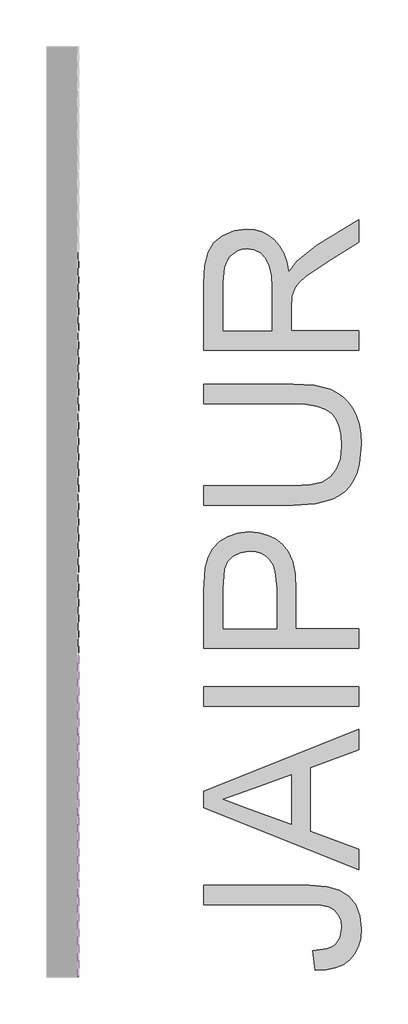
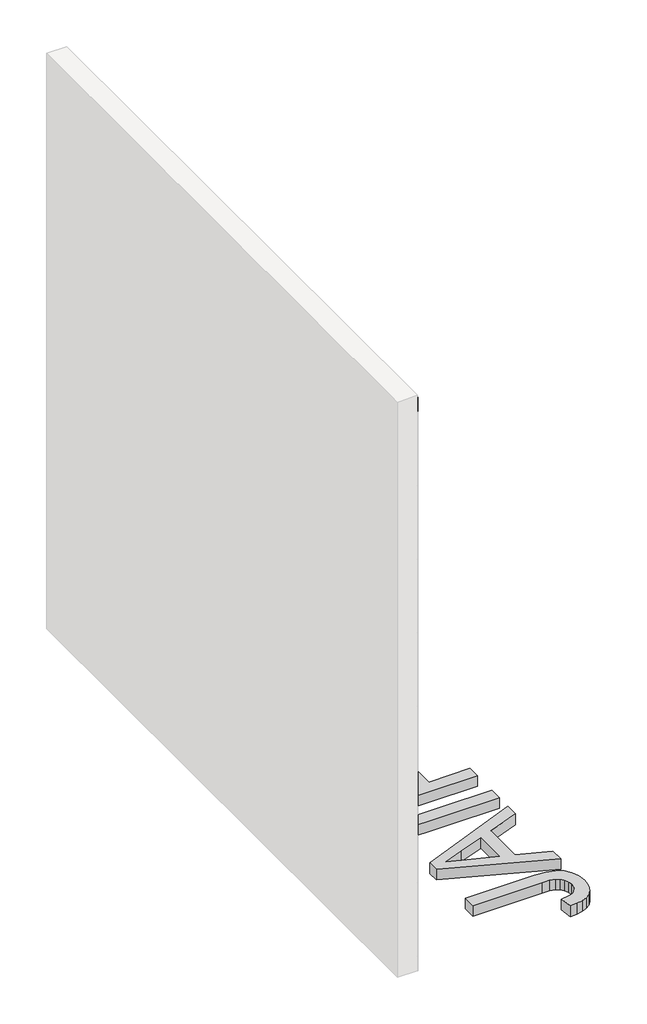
# One storey, part 16 of 45: 129 proxies.
"""IFC4 building model written with IfcOpenShell, lengths in millimetres."""

from ifc_helpers import new_model, si_unit, origin, origin_with_axes, place, context, project, spatial, polyline, outline, extrude, transform, mapped, element, save
from components import generic_models_ab0f2c30

model = new_model("IFC4")

# Units and contexts
model_context = context("Model", 3, world=origin())
ifc_project = project(units=[si_unit("LENGTHUNIT", "METRE", prefix="MILLI")], contexts=[model_context])

# Site, building, storey
site = spatial("IfcSite", under=ifc_project)
building = spatial("IfcBuilding", under=site)
storey = spatial("IfcBuildingStorey", under=building, Name="PORTOBELLO - SHOWROOM", Elevation=0.0)

# Proxies
placement = place(None, origin())
generic_models_shape = generic_models_ab0f2c30(model_context)
element("IfcBuildingElementProxy", 1, Name="PBSHOP - HORIZONTES JAIPUR 6,5X23 : JAIPUR", ObjectType="PBSHOP - HORIZONTES JAIPUR 6,5X23 : JAIPUR", at=placement, inside=storey, context=model_context, shape_type="MappedRepresentation", body=[
    mapped(generic_models_shape, transform((69111.8826867, 2039.9760255, 34.5), x_axis=(0.0, 0.0, 1.0), y_axis=(0.0, -1.0, 0.0), z_axis=(1.0, 0.0, 0.0))),
])
element("IfcBuildingElementProxy", 2, Name="PBSHOP - HORIZONTES JAIPUR 6,5X23 : JAIPUR", ObjectType="PBSHOP - HORIZONTES JAIPUR 6,5X23 : JAIPUR", at=placement, inside=storey, context=model_context, shape_type="MappedRepresentation", body=[
    mapped(generic_models_shape, transform((69111.8826867, 2273.9760255, 34.5), x_axis=(0.0, 0.0, 1.0), y_axis=(0.0, -1.0, 0.0), z_axis=(1.0, 0.0, 0.0))),
])
element("IfcBuildingElementProxy", 3, Name="PBSHOP - HORIZONTES JAIPUR 6,5X23 : JAIPUR", ObjectType="PBSHOP - HORIZONTES JAIPUR 6,5X23 : JAIPUR", at=placement, inside=storey, context=model_context, shape_type="MappedRepresentation", body=[
    mapped(generic_models_shape, transform((69111.8826867, 2507.9760255, 34.5), x_axis=(0.0, 0.0, 1.0), y_axis=(0.0, -1.0, 0.0), z_axis=(1.0, 0.0, 0.0))),
])
element("IfcBuildingElementProxy", 4, Name="PBSHOP - HORIZONTES JAIPUR 6,5X23 : JAIPUR", ObjectType="PBSHOP - HORIZONTES JAIPUR 6,5X23 : JAIPUR", at=placement, inside=storey, context=model_context, shape_type="MappedRepresentation", body=[
    mapped(generic_models_shape, transform((69111.8826867, 2741.9760255, 34.5), x_axis=(0.0, 0.0, 1.0), y_axis=(0.0, -1.0, 0.0), z_axis=(1.0, 0.0, 0.0))),
])
element("IfcBuildingElementProxy", 5, Name="PBSHOP - HORIZONTES JAIPUR 6,5X23 : JAIPUR", ObjectType="PBSHOP - HORIZONTES JAIPUR 6,5X23 : JAIPUR", at=placement, inside=storey, context=model_context, shape_type="MappedRepresentation", body=[
    mapped(generic_models_shape, transform((69111.8826867, 2975.9760255, 34.5), x_axis=(0.0, 0.0, 1.0), y_axis=(0.0, -1.0, 0.0), z_axis=(1.0, 0.0, 0.0))),
])
element("IfcBuildingElementProxy", 6, Name="PBSHOP - HORIZONTES JAIPUR 6,5X23 : JAIPUR", ObjectType="PBSHOP - HORIZONTES JAIPUR 6,5X23 : JAIPUR", at=placement, inside=storey, context=model_context, shape_type="MappedRepresentation", body=[
    mapped(generic_models_shape, transform((69111.8826867, 2039.9760255, 103.5), x_axis=(0.0, 0.0, 1.0), y_axis=(0.0, -1.0, 0.0), z_axis=(1.0, 0.0, 0.0))),
])
element("IfcBuildingElementProxy", 7, Name="PBSHOP - HORIZONTES JAIPUR 6,5X23 : JAIPUR", ObjectType="PBSHOP - HORIZONTES JAIPUR 6,5X23 : JAIPUR", at=placement, inside=storey, context=model_context, shape_type="MappedRepresentation", body=[
    mapped(generic_models_shape, transform((69111.8826867, 2273.9760255, 103.5), x_axis=(0.0, 0.0, 1.0), y_axis=(0.0, -1.0, 0.0), z_axis=(1.0, 0.0, 0.0))),
])
element("IfcBuildingElementProxy", 8, Name="PBSHOP - HORIZONTES JAIPUR 6,5X23 : JAIPUR", ObjectType="PBSHOP - HORIZONTES JAIPUR 6,5X23 : JAIPUR", at=placement, inside=storey, context=model_context, shape_type="MappedRepresentation", body=[
    mapped(generic_models_shape, transform((69111.8826867, 2507.9760255, 103.5), x_axis=(0.0, 0.0, 1.0), y_axis=(0.0, -1.0, 0.0), z_axis=(1.0, 0.0, 0.0))),
])
element("IfcBuildingElementProxy", 9, Name="PBSHOP - HORIZONTES JAIPUR 6,5X23 : JAIPUR", ObjectType="PBSHOP - HORIZONTES JAIPUR 6,5X23 : JAIPUR", at=placement, inside=storey, context=model_context, shape_type="MappedRepresentation", body=[
    mapped(generic_models_shape, transform((69111.8826867, 2741.9760255, 103.5), x_axis=(0.0, 0.0, 1.0), y_axis=(0.0, -1.0, 0.0), z_axis=(1.0, 0.0, 0.0))),
])
element("IfcBuildingElementProxy", 10, Name="PBSHOP - HORIZONTES JAIPUR 6,5X23 : JAIPUR", ObjectType="PBSHOP - HORIZONTES JAIPUR 6,5X23 : JAIPUR", at=placement, inside=storey, context=model_context, shape_type="MappedRepresentation", body=[
    mapped(generic_models_shape, transform((69111.8826867, 2975.9760255, 103.5), x_axis=(0.0, 0.0, 1.0), y_axis=(0.0, -1.0, 0.0), z_axis=(1.0, 0.0, 0.0))),
])
element("IfcBuildingElementProxy", 11, Name="PBSHOP - HORIZONTES JAIPUR 6,5X23 : JAIPUR", ObjectType="PBSHOP - HORIZONTES JAIPUR 6,5X23 : JAIPUR", at=placement, inside=storey, context=model_context, shape_type="MappedRepresentation", body=[
    mapped(generic_models_shape, transform((69111.8826867, 2039.9760255, 172.5), x_axis=(0.0, 0.0, 1.0), y_axis=(0.0, -1.0, 0.0), z_axis=(1.0, 0.0, 0.0))),
])
element("IfcBuildingElementProxy", 12, Name="PBSHOP - HORIZONTES JAIPUR 6,5X23 : JAIPUR", ObjectType="PBSHOP - HORIZONTES JAIPUR 6,5X23 : JAIPUR", at=placement, inside=storey, context=model_context, shape_type="MappedRepresentation", body=[
    mapped(generic_models_shape, transform((69111.8826867, 2273.9760255, 172.5), x_axis=(0.0, 0.0, 1.0), y_axis=(0.0, -1.0, 0.0), z_axis=(1.0, 0.0, 0.0))),
])
element("IfcBuildingElementProxy", 13, Name="PBSHOP - HORIZONTES JAIPUR 6,5X23 : JAIPUR", ObjectType="PBSHOP - HORIZONTES JAIPUR 6,5X23 : JAIPUR", at=placement, inside=storey, context=model_context, shape_type="MappedRepresentation", body=[
    mapped(generic_models_shape, transform((69111.8826867, 2507.9760255, 172.5), x_axis=(0.0, 0.0, 1.0), y_axis=(0.0, -1.0, 0.0), z_axis=(1.0, 0.0, 0.0))),
])
element("IfcBuildingElementProxy", 14, Name="PBSHOP - HORIZONTES JAIPUR 6,5X23 : JAIPUR", ObjectType="PBSHOP - HORIZONTES JAIPUR 6,5X23 : JAIPUR", at=placement, inside=storey, context=model_context, shape_type="MappedRepresentation", body=[
    mapped(generic_models_shape, transform((69111.8826867, 2741.9760255, 172.5), x_axis=(0.0, 0.0, 1.0), y_axis=(0.0, -1.0, 0.0), z_axis=(1.0, 0.0, 0.0))),
])
element("IfcBuildingElementProxy", 15, Name="PBSHOP - HORIZONTES JAIPUR 6,5X23 : JAIPUR", ObjectType="PBSHOP - HORIZONTES JAIPUR 6,5X23 : JAIPUR", at=placement, inside=storey, context=model_context, shape_type="MappedRepresentation", body=[
    mapped(generic_models_shape, transform((69111.8826867, 2975.9760255, 172.5), x_axis=(0.0, 0.0, 1.0), y_axis=(0.0, -1.0, 0.0), z_axis=(1.0, 0.0, 0.0))),
])
element("IfcBuildingElementProxy", 16, Name="PBSHOP - HORIZONTES JAIPUR 6,5X23 : JAIPUR", ObjectType="PBSHOP - HORIZONTES JAIPUR 6,5X23 : JAIPUR", at=placement, inside=storey, context=model_context, shape_type="MappedRepresentation", body=[
    mapped(generic_models_shape, transform((69111.8826867, 2039.9760255, 241.5), x_axis=(0.0, 0.0, 1.0), y_axis=(0.0, -1.0, 0.0), z_axis=(1.0, 0.0, 0.0))),
])
element("IfcBuildingElementProxy", 17, Name="PBSHOP - HORIZONTES JAIPUR 6,5X23 : JAIPUR", ObjectType="PBSHOP - HORIZONTES JAIPUR 6,5X23 : JAIPUR", at=placement, inside=storey, context=model_context, shape_type="MappedRepresentation", body=[
    mapped(generic_models_shape, transform((69111.8826867, 2273.9760255, 241.5), x_axis=(0.0, 0.0, 1.0), y_axis=(0.0, -1.0, 0.0), z_axis=(1.0, 0.0, 0.0))),
])
element("IfcBuildingElementProxy", 18, Name="PBSHOP - HORIZONTES JAIPUR 6,5X23 : JAIPUR", ObjectType="PBSHOP - HORIZONTES JAIPUR 6,5X23 : JAIPUR", at=placement, inside=storey, context=model_context, shape_type="MappedRepresentation", body=[
    mapped(generic_models_shape, transform((69111.8826867, 2507.9760255, 241.5), x_axis=(0.0, 0.0, 1.0), y_axis=(0.0, -1.0, 0.0), z_axis=(1.0, 0.0, 0.0))),
])
element("IfcBuildingElementProxy", 19, Name="PBSHOP - HORIZONTES JAIPUR 6,5X23 : JAIPUR", ObjectType="PBSHOP - HORIZONTES JAIPUR 6,5X23 : JAIPUR", at=placement, inside=storey, context=model_context, shape_type="MappedRepresentation", body=[
    mapped(generic_models_shape, transform((69111.8826867, 2741.9760255, 241.5), x_axis=(0.0, 0.0, 1.0), y_axis=(0.0, -1.0, 0.0), z_axis=(1.0, 0.0, 0.0))),
])
element("IfcBuildingElementProxy", 20, Name="PBSHOP - HORIZONTES JAIPUR 6,5X23 : JAIPUR", ObjectType="PBSHOP - HORIZONTES JAIPUR 6,5X23 : JAIPUR", at=placement, inside=storey, context=model_context, shape_type="MappedRepresentation", body=[
    mapped(generic_models_shape, transform((69111.8826867, 2975.9760255, 241.5), x_axis=(0.0, 0.0, 1.0), y_axis=(0.0, -1.0, 0.0), z_axis=(1.0, 0.0, 0.0))),
])
element("IfcBuildingElementProxy", 21, Name="PBSHOP - HORIZONTES JAIPUR 6,5X23 : JAIPUR", ObjectType="PBSHOP - HORIZONTES JAIPUR 6,5X23 : JAIPUR", at=placement, inside=storey, context=model_context, shape_type="MappedRepresentation", body=[
    mapped(generic_models_shape, transform((69111.8826867, 2039.9760255, 310.5), x_axis=(0.0, 0.0, 1.0), y_axis=(0.0, -1.0, 0.0), z_axis=(1.0, 0.0, 0.0))),
])
element("IfcBuildingElementProxy", 22, Name="PBSHOP - HORIZONTES JAIPUR 6,5X23 : JAIPUR", ObjectType="PBSHOP - HORIZONTES JAIPUR 6,5X23 : JAIPUR", at=placement, inside=storey, context=model_context, shape_type="MappedRepresentation", body=[
    mapped(generic_models_shape, transform((69111.8826867, 2273.9760255, 310.5), x_axis=(0.0, 0.0, 1.0), y_axis=(0.0, -1.0, 0.0), z_axis=(1.0, 0.0, 0.0))),
])
element("IfcBuildingElementProxy", 23, Name="PBSHOP - HORIZONTES JAIPUR 6,5X23 : JAIPUR", ObjectType="PBSHOP - HORIZONTES JAIPUR 6,5X23 : JAIPUR", at=placement, inside=storey, context=model_context, shape_type="MappedRepresentation", body=[
    mapped(generic_models_shape, transform((69111.8826867, 2507.9760255, 310.5), x_axis=(0.0, 0.0, 1.0), y_axis=(0.0, -1.0, 0.0), z_axis=(1.0, 0.0, 0.0))),
])
element("IfcBuildingElementProxy", 24, Name="PBSHOP - HORIZONTES JAIPUR 6,5X23 : JAIPUR", ObjectType="PBSHOP - HORIZONTES JAIPUR 6,5X23 : JAIPUR", at=placement, inside=storey, context=model_context, shape_type="MappedRepresentation", body=[
    mapped(generic_models_shape, transform((69111.8826867, 2741.9760255, 310.5), x_axis=(0.0, 0.0, 1.0), y_axis=(0.0, -1.0, 0.0), z_axis=(1.0, 0.0, 0.0))),
])
element("IfcBuildingElementProxy", 25, Name="PBSHOP - HORIZONTES JAIPUR 6,5X23 : JAIPUR", ObjectType="PBSHOP - HORIZONTES JAIPUR 6,5X23 : JAIPUR", at=placement, inside=storey, context=model_context, shape_type="MappedRepresentation", body=[
    mapped(generic_models_shape, transform((69111.8826867, 2975.9760255, 310.5), x_axis=(0.0, 0.0, 1.0), y_axis=(0.0, -1.0, 0.0), z_axis=(1.0, 0.0, 0.0))),
])
element("IfcBuildingElementProxy", 26, Name="PBSHOP - HORIZONTES JAIPUR 6,5X23 : JAIPUR", ObjectType="PBSHOP - HORIZONTES JAIPUR 6,5X23 : JAIPUR", at=placement, inside=storey, context=model_context, shape_type="MappedRepresentation", body=[
    mapped(generic_models_shape, transform((69111.8826867, 2039.9760255, 379.5), x_axis=(0.0, 0.0, 1.0), y_axis=(0.0, -1.0, 0.0), z_axis=(1.0, 0.0, 0.0))),
])
element("IfcBuildingElementProxy", 27, Name="PBSHOP - HORIZONTES JAIPUR 6,5X23 : JAIPUR", ObjectType="PBSHOP - HORIZONTES JAIPUR 6,5X23 : JAIPUR", at=placement, inside=storey, context=model_context, shape_type="MappedRepresentation", body=[
    mapped(generic_models_shape, transform((69111.8826867, 2273.9760255, 379.5), x_axis=(0.0, 0.0, 1.0), y_axis=(0.0, -1.0, 0.0), z_axis=(1.0, 0.0, 0.0))),
])
element("IfcBuildingElementProxy", 28, Name="PBSHOP - HORIZONTES JAIPUR 6,5X23 : JAIPUR", ObjectType="PBSHOP - HORIZONTES JAIPUR 6,5X23 : JAIPUR", at=placement, inside=storey, context=model_context, shape_type="MappedRepresentation", body=[
    mapped(generic_models_shape, transform((69111.8826867, 2507.9760255, 379.5), x_axis=(0.0, 0.0, 1.0), y_axis=(0.0, -1.0, 0.0), z_axis=(1.0, 0.0, 0.0))),
])
element("IfcBuildingElementProxy", 29, Name="PBSHOP - HORIZONTES JAIPUR 6,5X23 : JAIPUR", ObjectType="PBSHOP - HORIZONTES JAIPUR 6,5X23 : JAIPUR", at=placement, inside=storey, context=model_context, shape_type="MappedRepresentation", body=[
    mapped(generic_models_shape, transform((69111.8826867, 2741.9760255, 379.5), x_axis=(0.0, 0.0, 1.0), y_axis=(0.0, -1.0, 0.0), z_axis=(1.0, 0.0, 0.0))),
])
element("IfcBuildingElementProxy", 30, Name="PBSHOP - HORIZONTES JAIPUR 6,5X23 : JAIPUR", ObjectType="PBSHOP - HORIZONTES JAIPUR 6,5X23 : JAIPUR", at=placement, inside=storey, context=model_context, shape_type="MappedRepresentation", body=[
    mapped(generic_models_shape, transform((69111.8826867, 2975.9760255, 379.5), x_axis=(0.0, 0.0, 1.0), y_axis=(0.0, -1.0, 0.0), z_axis=(1.0, 0.0, 0.0))),
])
element("IfcBuildingElementProxy", 31, Name="PBSHOP - HORIZONTES JAIPUR 6,5X23 : JAIPUR", ObjectType="PBSHOP - HORIZONTES JAIPUR 6,5X23 : JAIPUR", at=placement, inside=storey, context=model_context, shape_type="MappedRepresentation", body=[
    mapped(generic_models_shape, transform((69111.8826867, 2039.9760255, 448.5), x_axis=(0.0, 0.0, 1.0), y_axis=(0.0, -1.0, 0.0), z_axis=(1.0, 0.0, 0.0))),
])
element("IfcBuildingElementProxy", 32, Name="PBSHOP - HORIZONTES JAIPUR 6,5X23 : JAIPUR", ObjectType="PBSHOP - HORIZONTES JAIPUR 6,5X23 : JAIPUR", at=placement, inside=storey, context=model_context, shape_type="MappedRepresentation", body=[
    mapped(generic_models_shape, transform((69111.8826867, 2273.9760255, 448.5), x_axis=(0.0, 0.0, 1.0), y_axis=(0.0, -1.0, 0.0), z_axis=(1.0, 0.0, 0.0))),
])
element("IfcBuildingElementProxy", 33, Name="PBSHOP - HORIZONTES JAIPUR 6,5X23 : JAIPUR", ObjectType="PBSHOP - HORIZONTES JAIPUR 6,5X23 : JAIPUR", at=placement, inside=storey, context=model_context, shape_type="MappedRepresentation", body=[
    mapped(generic_models_shape, transform((69111.8826867, 2507.9760255, 448.5), x_axis=(0.0, 0.0, 1.0), y_axis=(0.0, -1.0, 0.0), z_axis=(1.0, 0.0, 0.0))),
])
element("IfcBuildingElementProxy", 34, Name="PBSHOP - HORIZONTES JAIPUR 6,5X23 : JAIPUR", ObjectType="PBSHOP - HORIZONTES JAIPUR 6,5X23 : JAIPUR", at=placement, inside=storey, context=model_context, shape_type="MappedRepresentation", body=[
    mapped(generic_models_shape, transform((69111.8826867, 2741.9760255, 448.5), x_axis=(0.0, 0.0, 1.0), y_axis=(0.0, -1.0, 0.0), z_axis=(1.0, 0.0, 0.0))),
])
element("IfcBuildingElementProxy", 35, Name="PBSHOP - HORIZONTES JAIPUR 6,5X23 : JAIPUR", ObjectType="PBSHOP - HORIZONTES JAIPUR 6,5X23 : JAIPUR", at=placement, inside=storey, context=model_context, shape_type="MappedRepresentation", body=[
    mapped(generic_models_shape, transform((69111.8826867, 2975.9760255, 448.5), x_axis=(0.0, 0.0, 1.0), y_axis=(0.0, -1.0, 0.0), z_axis=(1.0, 0.0, 0.0))),
])
element("IfcBuildingElementProxy", 36, Name="PBSHOP - HORIZONTES JAIPUR 6,5X23 : JAIPUR", ObjectType="PBSHOP - HORIZONTES JAIPUR 6,5X23 : JAIPUR", at=placement, inside=storey, context=model_context, shape_type="MappedRepresentation", body=[
    mapped(generic_models_shape, transform((69111.8826867, 2039.9760255, 517.5), x_axis=(0.0, 0.0, 1.0), y_axis=(0.0, -1.0, 0.0), z_axis=(1.0, 0.0, 0.0))),
])
element("IfcBuildingElementProxy", 37, Name="PBSHOP - HORIZONTES JAIPUR 6,5X23 : JAIPUR", ObjectType="PBSHOP - HORIZONTES JAIPUR 6,5X23 : JAIPUR", at=placement, inside=storey, context=model_context, shape_type="MappedRepresentation", body=[
    mapped(generic_models_shape, transform((69111.8826867, 2273.9760255, 517.5), x_axis=(0.0, 0.0, 1.0), y_axis=(0.0, -1.0, 0.0), z_axis=(1.0, 0.0, 0.0))),
])
element("IfcBuildingElementProxy", 38, Name="PBSHOP - HORIZONTES JAIPUR 6,5X23 : JAIPUR", ObjectType="PBSHOP - HORIZONTES JAIPUR 6,5X23 : JAIPUR", at=placement, inside=storey, context=model_context, shape_type="MappedRepresentation", body=[
    mapped(generic_models_shape, transform((69111.8826867, 2507.9760255, 517.5), x_axis=(0.0, 0.0, 1.0), y_axis=(0.0, -1.0, 0.0), z_axis=(1.0, 0.0, 0.0))),
])
element("IfcBuildingElementProxy", 39, Name="PBSHOP - HORIZONTES JAIPUR 6,5X23 : JAIPUR", ObjectType="PBSHOP - HORIZONTES JAIPUR 6,5X23 : JAIPUR", at=placement, inside=storey, context=model_context, shape_type="MappedRepresentation", body=[
    mapped(generic_models_shape, transform((69111.8826867, 2741.9760255, 517.5), x_axis=(0.0, 0.0, 1.0), y_axis=(0.0, -1.0, 0.0), z_axis=(1.0, 0.0, 0.0))),
])
element("IfcBuildingElementProxy", 40, Name="PBSHOP - HORIZONTES JAIPUR 6,5X23 : JAIPUR", ObjectType="PBSHOP - HORIZONTES JAIPUR 6,5X23 : JAIPUR", at=placement, inside=storey, context=model_context, shape_type="MappedRepresentation", body=[
    mapped(generic_models_shape, transform((69111.8826867, 2975.9760255, 517.5), x_axis=(0.0, 0.0, 1.0), y_axis=(0.0, -1.0, 0.0), z_axis=(1.0, 0.0, 0.0))),
])
element("IfcBuildingElementProxy", 41, Name="PBSHOP - HORIZONTES JAIPUR 6,5X23 : JAIPUR", ObjectType="PBSHOP - HORIZONTES JAIPUR 6,5X23 : JAIPUR", at=placement, inside=storey, context=model_context, shape_type="MappedRepresentation", body=[
    mapped(generic_models_shape, transform((69111.8826867, 2039.9760255, 586.5), x_axis=(0.0, 0.0, 1.0), y_axis=(0.0, -1.0, 0.0), z_axis=(1.0, 0.0, 0.0))),
])
element("IfcBuildingElementProxy", 42, Name="PBSHOP - HORIZONTES JAIPUR 6,5X23 : JAIPUR", ObjectType="PBSHOP - HORIZONTES JAIPUR 6,5X23 : JAIPUR", at=placement, inside=storey, context=model_context, shape_type="MappedRepresentation", body=[
    mapped(generic_models_shape, transform((69111.8826867, 2273.9760255, 586.5), x_axis=(0.0, 0.0, 1.0), y_axis=(0.0, -1.0, 0.0), z_axis=(1.0, 0.0, 0.0))),
])
element("IfcBuildingElementProxy", 43, Name="PBSHOP - HORIZONTES JAIPUR 6,5X23 : JAIPUR", ObjectType="PBSHOP - HORIZONTES JAIPUR 6,5X23 : JAIPUR", at=placement, inside=storey, context=model_context, shape_type="MappedRepresentation", body=[
    mapped(generic_models_shape, transform((69111.8826867, 2507.9760255, 586.5), x_axis=(0.0, 0.0, 1.0), y_axis=(0.0, -1.0, 0.0), z_axis=(1.0, 0.0, 0.0))),
])
element("IfcBuildingElementProxy", 44, Name="PBSHOP - HORIZONTES JAIPUR 6,5X23 : JAIPUR", ObjectType="PBSHOP - HORIZONTES JAIPUR 6,5X23 : JAIPUR", at=placement, inside=storey, context=model_context, shape_type="MappedRepresentation", body=[
    mapped(generic_models_shape, transform((69111.8826867, 2741.9760255, 586.5), x_axis=(0.0, 0.0, 1.0), y_axis=(0.0, -1.0, 0.0), z_axis=(1.0, 0.0, 0.0))),
])
element("IfcBuildingElementProxy", 45, Name="PBSHOP - HORIZONTES JAIPUR 6,5X23 : JAIPUR", ObjectType="PBSHOP - HORIZONTES JAIPUR 6,5X23 : JAIPUR", at=placement, inside=storey, context=model_context, shape_type="MappedRepresentation", body=[
    mapped(generic_models_shape, transform((69111.8826867, 2975.9760255, 586.5), x_axis=(0.0, 0.0, 1.0), y_axis=(0.0, -1.0, 0.0), z_axis=(1.0, 0.0, 0.0))),
])
element("IfcBuildingElementProxy", 46, Name="PBSHOP - HORIZONTES JAIPUR 6,5X23 : JAIPUR", ObjectType="PBSHOP - HORIZONTES JAIPUR 6,5X23 : JAIPUR", at=placement, inside=storey, context=model_context, shape_type="MappedRepresentation", body=[
    mapped(generic_models_shape, transform((69111.8826867, 2039.9760255, 655.5), x_axis=(0.0, 0.0, 1.0), y_axis=(0.0, -1.0, 0.0), z_axis=(1.0, 0.0, 0.0))),
])
element("IfcBuildingElementProxy", 47, Name="PBSHOP - HORIZONTES JAIPUR 6,5X23 : JAIPUR", ObjectType="PBSHOP - HORIZONTES JAIPUR 6,5X23 : JAIPUR", at=placement, inside=storey, context=model_context, shape_type="MappedRepresentation", body=[
    mapped(generic_models_shape, transform((69111.8826867, 2273.9760255, 655.5), x_axis=(0.0, 0.0, 1.0), y_axis=(0.0, -1.0, 0.0), z_axis=(1.0, 0.0, 0.0))),
])
element("IfcBuildingElementProxy", 48, Name="PBSHOP - HORIZONTES JAIPUR 6,5X23 : JAIPUR", ObjectType="PBSHOP - HORIZONTES JAIPUR 6,5X23 : JAIPUR", at=placement, inside=storey, context=model_context, shape_type="MappedRepresentation", body=[
    mapped(generic_models_shape, transform((69111.8826867, 2507.9760255, 655.5), x_axis=(0.0, 0.0, 1.0), y_axis=(0.0, -1.0, 0.0), z_axis=(1.0, 0.0, 0.0))),
])
element("IfcBuildingElementProxy", 49, Name="PBSHOP - HORIZONTES JAIPUR 6,5X23 : JAIPUR", ObjectType="PBSHOP - HORIZONTES JAIPUR 6,5X23 : JAIPUR", at=placement, inside=storey, context=model_context, shape_type="MappedRepresentation", body=[
    mapped(generic_models_shape, transform((69111.8826867, 2741.9760255, 655.5), x_axis=(0.0, 0.0, 1.0), y_axis=(0.0, -1.0, 0.0), z_axis=(1.0, 0.0, 0.0))),
])
element("IfcBuildingElementProxy", 50, Name="PBSHOP - HORIZONTES JAIPUR 6,5X23 : JAIPUR", ObjectType="PBSHOP - HORIZONTES JAIPUR 6,5X23 : JAIPUR", at=placement, inside=storey, context=model_context, shape_type="MappedRepresentation", body=[
    mapped(generic_models_shape, transform((69111.8826867, 2975.9760255, 655.5), x_axis=(0.0, 0.0, 1.0), y_axis=(0.0, -1.0, 0.0), z_axis=(1.0, 0.0, 0.0))),
])
element("IfcBuildingElementProxy", 51, Name="PBSHOP - HORIZONTES JAIPUR 6,5X23 : JAIPUR", ObjectType="PBSHOP - HORIZONTES JAIPUR 6,5X23 : JAIPUR", at=placement, inside=storey, context=model_context, shape_type="MappedRepresentation", body=[
    mapped(generic_models_shape, transform((69111.8826867, 2039.9760255, 724.5), x_axis=(0.0, 0.0, 1.0), y_axis=(0.0, -1.0, 0.0), z_axis=(1.0, 0.0, 0.0))),
])
element("IfcBuildingElementProxy", 52, Name="PBSHOP - HORIZONTES JAIPUR 6,5X23 : JAIPUR", ObjectType="PBSHOP - HORIZONTES JAIPUR 6,5X23 : JAIPUR", at=placement, inside=storey, context=model_context, shape_type="MappedRepresentation", body=[
    mapped(generic_models_shape, transform((69111.8826867, 2273.9760255, 724.5), x_axis=(0.0, 0.0, 1.0), y_axis=(0.0, -1.0, 0.0), z_axis=(1.0, 0.0, 0.0))),
])
element("IfcBuildingElementProxy", 53, Name="PBSHOP - HORIZONTES JAIPUR 6,5X23 : JAIPUR", ObjectType="PBSHOP - HORIZONTES JAIPUR 6,5X23 : JAIPUR", at=placement, inside=storey, context=model_context, shape_type="MappedRepresentation", body=[
    mapped(generic_models_shape, transform((69111.8826867, 2507.9760255, 724.5), x_axis=(0.0, 0.0, 1.0), y_axis=(0.0, -1.0, 0.0), z_axis=(1.0, 0.0, 0.0))),
])
element("IfcBuildingElementProxy", 54, Name="PBSHOP - HORIZONTES JAIPUR 6,5X23 : JAIPUR", ObjectType="PBSHOP - HORIZONTES JAIPUR 6,5X23 : JAIPUR", at=placement, inside=storey, context=model_context, shape_type="MappedRepresentation", body=[
    mapped(generic_models_shape, transform((69111.8826867, 2741.9760255, 724.5), x_axis=(0.0, 0.0, 1.0), y_axis=(0.0, -1.0, 0.0), z_axis=(1.0, 0.0, 0.0))),
])
element("IfcBuildingElementProxy", 55, Name="PBSHOP - HORIZONTES JAIPUR 6,5X23 : JAIPUR", ObjectType="PBSHOP - HORIZONTES JAIPUR 6,5X23 : JAIPUR", at=placement, inside=storey, context=model_context, shape_type="MappedRepresentation", body=[
    mapped(generic_models_shape, transform((69111.8826867, 2975.9760255, 724.5), x_axis=(0.0, 0.0, 1.0), y_axis=(0.0, -1.0, 0.0), z_axis=(1.0, 0.0, 0.0))),
])
element("IfcBuildingElementProxy", 56, Name="PBSHOP - HORIZONTES JAIPUR 6,5X23 : JAIPUR", ObjectType="PBSHOP - HORIZONTES JAIPUR 6,5X23 : JAIPUR", at=placement, inside=storey, context=model_context, shape_type="MappedRepresentation", body=[
    mapped(generic_models_shape, transform((69111.8826867, 2039.9760255, 793.5), x_axis=(0.0, 0.0, 1.0), y_axis=(0.0, -1.0, 0.0), z_axis=(1.0, 0.0, 0.0))),
])
element("IfcBuildingElementProxy", 57, Name="PBSHOP - HORIZONTES JAIPUR 6,5X23 : JAIPUR", ObjectType="PBSHOP - HORIZONTES JAIPUR 6,5X23 : JAIPUR", at=placement, inside=storey, context=model_context, shape_type="MappedRepresentation", body=[
    mapped(generic_models_shape, transform((69111.8826867, 2273.9760255, 793.5), x_axis=(0.0, 0.0, 1.0), y_axis=(0.0, -1.0, 0.0), z_axis=(1.0, 0.0, 0.0))),
])
element("IfcBuildingElementProxy", 58, Name="PBSHOP - HORIZONTES JAIPUR 6,5X23 : JAIPUR", ObjectType="PBSHOP - HORIZONTES JAIPUR 6,5X23 : JAIPUR", at=placement, inside=storey, context=model_context, shape_type="MappedRepresentation", body=[
    mapped(generic_models_shape, transform((69111.8826867, 2507.9760255, 793.5), x_axis=(0.0, 0.0, 1.0), y_axis=(0.0, -1.0, 0.0), z_axis=(1.0, 0.0, 0.0))),
])
element("IfcBuildingElementProxy", 59, Name="PBSHOP - HORIZONTES JAIPUR 6,5X23 : JAIPUR", ObjectType="PBSHOP - HORIZONTES JAIPUR 6,5X23 : JAIPUR", at=placement, inside=storey, context=model_context, shape_type="MappedRepresentation", body=[
    mapped(generic_models_shape, transform((69111.8826867, 2741.9760255, 793.5), x_axis=(0.0, 0.0, 1.0), y_axis=(0.0, -1.0, 0.0), z_axis=(1.0, 0.0, 0.0))),
])
element("IfcBuildingElementProxy", 60, Name="PBSHOP - HORIZONTES JAIPUR 6,5X23 : JAIPUR", ObjectType="PBSHOP - HORIZONTES JAIPUR 6,5X23 : JAIPUR", at=placement, inside=storey, context=model_context, shape_type="MappedRepresentation", body=[
    mapped(generic_models_shape, transform((69111.8826867, 2975.9760255, 793.5), x_axis=(0.0, 0.0, 1.0), y_axis=(0.0, -1.0, 0.0), z_axis=(1.0, 0.0, 0.0))),
])
element("IfcBuildingElementProxy", 61, Name="PBSHOP - HORIZONTES JAIPUR 6,5X23 : JAIPUR", ObjectType="PBSHOP - HORIZONTES JAIPUR 6,5X23 : JAIPUR", at=placement, inside=storey, context=model_context, shape_type="MappedRepresentation", body=[
    mapped(generic_models_shape, transform((69111.8826867, 2039.9760255, 862.5), x_axis=(0.0, 0.0, 1.0), y_axis=(0.0, -1.0, 0.0), z_axis=(1.0, 0.0, 0.0))),
])
element("IfcBuildingElementProxy", 62, Name="PBSHOP - HORIZONTES JAIPUR 6,5X23 : JAIPUR", ObjectType="PBSHOP - HORIZONTES JAIPUR 6,5X23 : JAIPUR", at=placement, inside=storey, context=model_context, shape_type="MappedRepresentation", body=[
    mapped(generic_models_shape, transform((69111.8826867, 2273.9760255, 862.5), x_axis=(0.0, 0.0, 1.0), y_axis=(0.0, -1.0, 0.0), z_axis=(1.0, 0.0, 0.0))),
])
element("IfcBuildingElementProxy", 63, Name="PBSHOP - HORIZONTES JAIPUR 6,5X23 : JAIPUR", ObjectType="PBSHOP - HORIZONTES JAIPUR 6,5X23 : JAIPUR", at=placement, inside=storey, context=model_context, shape_type="MappedRepresentation", body=[
    mapped(generic_models_shape, transform((69111.8826867, 2507.9760255, 862.5), x_axis=(0.0, 0.0, 1.0), y_axis=(0.0, -1.0, 0.0), z_axis=(1.0, 0.0, 0.0))),
])
element("IfcBuildingElementProxy", 64, Name="PBSHOP - HORIZONTES JAIPUR 6,5X23 : JAIPUR", ObjectType="PBSHOP - HORIZONTES JAIPUR 6,5X23 : JAIPUR", at=placement, inside=storey, context=model_context, shape_type="MappedRepresentation", body=[
    mapped(generic_models_shape, transform((69111.8826867, 2741.9760255, 862.5), x_axis=(0.0, 0.0, 1.0), y_axis=(0.0, -1.0, 0.0), z_axis=(1.0, 0.0, 0.0))),
])
element("IfcBuildingElementProxy", 65, Name="PBSHOP - HORIZONTES JAIPUR 6,5X23 : JAIPUR", ObjectType="PBSHOP - HORIZONTES JAIPUR 6,5X23 : JAIPUR", at=placement, inside=storey, context=model_context, shape_type="MappedRepresentation", body=[
    mapped(generic_models_shape, transform((69111.8826867, 2975.9760255, 862.5), x_axis=(0.0, 0.0, 1.0), y_axis=(0.0, -1.0, 0.0), z_axis=(1.0, 0.0, 0.0))),
])
element("IfcBuildingElementProxy", 66, Name="PBSHOP - HORIZONTES JAIPUR 6,5X23 : JAIPUR", ObjectType="PBSHOP - HORIZONTES JAIPUR 6,5X23 : JAIPUR", at=placement, inside=storey, context=model_context, shape_type="MappedRepresentation", body=[
    mapped(generic_models_shape, transform((69111.8826867, 2039.9760255, 931.5), x_axis=(0.0, 0.0, 1.0), y_axis=(0.0, -1.0, 0.0), z_axis=(1.0, 0.0, 0.0))),
])
element("IfcBuildingElementProxy", 67, Name="PBSHOP - HORIZONTES JAIPUR 6,5X23 : JAIPUR", ObjectType="PBSHOP - HORIZONTES JAIPUR 6,5X23 : JAIPUR", at=placement, inside=storey, context=model_context, shape_type="MappedRepresentation", body=[
    mapped(generic_models_shape, transform((69111.8826867, 2273.9760255, 931.5), x_axis=(0.0, 0.0, 1.0), y_axis=(0.0, -1.0, 0.0), z_axis=(1.0, 0.0, 0.0))),
])
element("IfcBuildingElementProxy", 68, Name="PBSHOP - HORIZONTES JAIPUR 6,5X23 : JAIPUR", ObjectType="PBSHOP - HORIZONTES JAIPUR 6,5X23 : JAIPUR", at=placement, inside=storey, context=model_context, shape_type="MappedRepresentation", body=[
    mapped(generic_models_shape, transform((69111.8826867, 2507.9760255, 931.5), x_axis=(0.0, 0.0, 1.0), y_axis=(0.0, -1.0, 0.0), z_axis=(1.0, 0.0, 0.0))),
])
element("IfcBuildingElementProxy", 69, Name="PBSHOP - HORIZONTES JAIPUR 6,5X23 : JAIPUR", ObjectType="PBSHOP - HORIZONTES JAIPUR 6,5X23 : JAIPUR", at=placement, inside=storey, context=model_context, shape_type="MappedRepresentation", body=[
    mapped(generic_models_shape, transform((69111.8826867, 2741.9760255, 931.5), x_axis=(0.0, 0.0, 1.0), y_axis=(0.0, -1.0, 0.0), z_axis=(1.0, 0.0, 0.0))),
])
element("IfcBuildingElementProxy", 70, Name="PBSHOP - HORIZONTES JAIPUR 6,5X23 : JAIPUR", ObjectType="PBSHOP - HORIZONTES JAIPUR 6,5X23 : JAIPUR", at=placement, inside=storey, context=model_context, shape_type="MappedRepresentation", body=[
    mapped(generic_models_shape, transform((69111.8826867, 2975.9760255, 931.5), x_axis=(0.0, 0.0, 1.0), y_axis=(0.0, -1.0, 0.0), z_axis=(1.0, 0.0, 0.0))),
])
element("IfcBuildingElementProxy", 71, Name="PBSHOP - HORIZONTES JAIPUR 6,5X23 : JAIPUR", ObjectType="PBSHOP - HORIZONTES JAIPUR 6,5X23 : JAIPUR", at=placement, inside=storey, context=model_context, shape_type="MappedRepresentation", body=[
    mapped(generic_models_shape, transform((69111.8826867, 2039.9760255, 1000.5), x_axis=(0.0, 0.0, 1.0), y_axis=(0.0, -1.0, 0.0), z_axis=(1.0, 0.0, 0.0))),
])
element("IfcBuildingElementProxy", 72, Name="PBSHOP - HORIZONTES JAIPUR 6,5X23 : JAIPUR", ObjectType="PBSHOP - HORIZONTES JAIPUR 6,5X23 : JAIPUR", at=placement, inside=storey, context=model_context, shape_type="MappedRepresentation", body=[
    mapped(generic_models_shape, transform((69111.8826867, 2273.9760255, 1000.5), x_axis=(0.0, 0.0, 1.0), y_axis=(0.0, -1.0, 0.0), z_axis=(1.0, 0.0, 0.0))),
])
element("IfcBuildingElementProxy", 73, Name="PBSHOP - HORIZONTES JAIPUR 6,5X23 : JAIPUR", ObjectType="PBSHOP - HORIZONTES JAIPUR 6,5X23 : JAIPUR", at=placement, inside=storey, context=model_context, shape_type="MappedRepresentation", body=[
    mapped(generic_models_shape, transform((69111.8826867, 2507.9760255, 1000.5), x_axis=(0.0, 0.0, 1.0), y_axis=(0.0, -1.0, 0.0), z_axis=(1.0, 0.0, 0.0))),
])
element("IfcBuildingElementProxy", 74, Name="PBSHOP - HORIZONTES JAIPUR 6,5X23 : JAIPUR", ObjectType="PBSHOP - HORIZONTES JAIPUR 6,5X23 : JAIPUR", at=placement, inside=storey, context=model_context, shape_type="MappedRepresentation", body=[
    mapped(generic_models_shape, transform((69111.8826867, 2741.9760255, 1000.5), x_axis=(0.0, 0.0, 1.0), y_axis=(0.0, -1.0, 0.0), z_axis=(1.0, 0.0, 0.0))),
])
element("IfcBuildingElementProxy", 75, Name="PBSHOP - HORIZONTES JAIPUR 6,5X23 : JAIPUR", ObjectType="PBSHOP - HORIZONTES JAIPUR 6,5X23 : JAIPUR", at=placement, inside=storey, context=model_context, shape_type="MappedRepresentation", body=[
    mapped(generic_models_shape, transform((69111.8826867, 2975.9760255, 1000.5), x_axis=(0.0, 0.0, 1.0), y_axis=(0.0, -1.0, 0.0), z_axis=(1.0, 0.0, 0.0))),
])
element("IfcBuildingElementProxy", 76, Name="PBSHOP - HORIZONTES JAIPUR 6,5X23 : JAIPUR", ObjectType="PBSHOP - HORIZONTES JAIPUR 6,5X23 : JAIPUR", at=placement, inside=storey, context=model_context, shape_type="MappedRepresentation", body=[
    mapped(generic_models_shape, transform((69111.8826867, 2039.9760255, 1069.5), x_axis=(0.0, 0.0, 1.0), y_axis=(0.0, -1.0, 0.0), z_axis=(1.0, 0.0, 0.0))),
])
element("IfcBuildingElementProxy", 77, Name="PBSHOP - HORIZONTES JAIPUR 6,5X23 : JAIPUR", ObjectType="PBSHOP - HORIZONTES JAIPUR 6,5X23 : JAIPUR", at=placement, inside=storey, context=model_context, shape_type="MappedRepresentation", body=[
    mapped(generic_models_shape, transform((69111.8826867, 2273.9760255, 1069.5), x_axis=(0.0, 0.0, 1.0), y_axis=(0.0, -1.0, 0.0), z_axis=(1.0, 0.0, 0.0))),
])
element("IfcBuildingElementProxy", 78, Name="PBSHOP - HORIZONTES JAIPUR 6,5X23 : JAIPUR", ObjectType="PBSHOP - HORIZONTES JAIPUR 6,5X23 : JAIPUR", at=placement, inside=storey, context=model_context, shape_type="MappedRepresentation", body=[
    mapped(generic_models_shape, transform((69111.8826867, 2507.9760255, 1069.5), x_axis=(0.0, 0.0, 1.0), y_axis=(0.0, -1.0, 0.0), z_axis=(1.0, 0.0, 0.0))),
])
element("IfcBuildingElementProxy", 79, Name="PBSHOP - HORIZONTES JAIPUR 6,5X23 : JAIPUR", ObjectType="PBSHOP - HORIZONTES JAIPUR 6,5X23 : JAIPUR", at=placement, inside=storey, context=model_context, shape_type="MappedRepresentation", body=[
    mapped(generic_models_shape, transform((69111.8826867, 2741.9760255, 1069.5), x_axis=(0.0, 0.0, 1.0), y_axis=(0.0, -1.0, 0.0), z_axis=(1.0, 0.0, 0.0))),
])
element("IfcBuildingElementProxy", 80, Name="PBSHOP - HORIZONTES JAIPUR 6,5X23 : JAIPUR", ObjectType="PBSHOP - HORIZONTES JAIPUR 6,5X23 : JAIPUR", at=placement, inside=storey, context=model_context, shape_type="MappedRepresentation", body=[
    mapped(generic_models_shape, transform((69111.8826867, 2975.9760255, 1069.5), x_axis=(0.0, 0.0, 1.0), y_axis=(0.0, -1.0, 0.0), z_axis=(1.0, 0.0, 0.0))),
])
element("IfcBuildingElementProxy", 81, Name="PBSHOP - HORIZONTES JAIPUR 6,5X23 : JAIPUR", ObjectType="PBSHOP - HORIZONTES JAIPUR 6,5X23 : JAIPUR", at=placement, inside=storey, context=model_context, shape_type="MappedRepresentation", body=[
    mapped(generic_models_shape, transform((69111.8826867, 2039.9760255, 1138.5), x_axis=(0.0, 0.0, 1.0), y_axis=(0.0, -1.0, 0.0), z_axis=(1.0, 0.0, 0.0))),
])
element("IfcBuildingElementProxy", 82, Name="PBSHOP - HORIZONTES JAIPUR 6,5X23 : JAIPUR", ObjectType="PBSHOP - HORIZONTES JAIPUR 6,5X23 : JAIPUR", at=placement, inside=storey, context=model_context, shape_type="MappedRepresentation", body=[
    mapped(generic_models_shape, transform((69111.8826867, 2273.9760255, 1138.5), x_axis=(0.0, 0.0, 1.0), y_axis=(0.0, -1.0, 0.0), z_axis=(1.0, 0.0, 0.0))),
])
element("IfcBuildingElementProxy", 83, Name="PBSHOP - HORIZONTES JAIPUR 6,5X23 : JAIPUR", ObjectType="PBSHOP - HORIZONTES JAIPUR 6,5X23 : JAIPUR", at=placement, inside=storey, context=model_context, shape_type="MappedRepresentation", body=[
    mapped(generic_models_shape, transform((69111.8826867, 2507.9760255, 1138.5), x_axis=(0.0, 0.0, 1.0), y_axis=(0.0, -1.0, 0.0), z_axis=(1.0, 0.0, 0.0))),
])
element("IfcBuildingElementProxy", 84, Name="PBSHOP - HORIZONTES JAIPUR 6,5X23 : JAIPUR", ObjectType="PBSHOP - HORIZONTES JAIPUR 6,5X23 : JAIPUR", at=placement, inside=storey, context=model_context, shape_type="MappedRepresentation", body=[
    mapped(generic_models_shape, transform((69111.8826867, 2741.9760255, 1138.5), x_axis=(0.0, 0.0, 1.0), y_axis=(0.0, -1.0, 0.0), z_axis=(1.0, 0.0, 0.0))),
])
element("IfcBuildingElementProxy", 85, Name="PBSHOP - HORIZONTES JAIPUR 6,5X23 : JAIPUR", ObjectType="PBSHOP - HORIZONTES JAIPUR 6,5X23 : JAIPUR", at=placement, inside=storey, context=model_context, shape_type="MappedRepresentation", body=[
    mapped(generic_models_shape, transform((69111.8826867, 2975.9760255, 1138.5), x_axis=(0.0, 0.0, 1.0), y_axis=(0.0, -1.0, 0.0), z_axis=(1.0, 0.0, 0.0))),
])
element("IfcBuildingElementProxy", 86, Name="PBSHOP - HORIZONTES JAIPUR 6,5X23 : JAIPUR", ObjectType="PBSHOP - HORIZONTES JAIPUR 6,5X23 : JAIPUR", at=placement, inside=storey, context=model_context, shape_type="MappedRepresentation", body=[
    mapped(generic_models_shape, transform((69111.8826867, 2039.9760255, 1207.5), x_axis=(0.0, 0.0, 1.0), y_axis=(0.0, -1.0, 0.0), z_axis=(1.0, 0.0, 0.0))),
])
element("IfcBuildingElementProxy", 87, Name="PBSHOP - HORIZONTES JAIPUR 6,5X23 : JAIPUR", ObjectType="PBSHOP - HORIZONTES JAIPUR 6,5X23 : JAIPUR", at=placement, inside=storey, context=model_context, shape_type="MappedRepresentation", body=[
    mapped(generic_models_shape, transform((69111.8826867, 2273.9760255, 1207.5), x_axis=(0.0, 0.0, 1.0), y_axis=(0.0, -1.0, 0.0), z_axis=(1.0, 0.0, 0.0))),
])
element("IfcBuildingElementProxy", 88, Name="PBSHOP - HORIZONTES JAIPUR 6,5X23 : JAIPUR", ObjectType="PBSHOP - HORIZONTES JAIPUR 6,5X23 : JAIPUR", at=placement, inside=storey, context=model_context, shape_type="MappedRepresentation", body=[
    mapped(generic_models_shape, transform((69111.8826867, 2507.9760255, 1207.5), x_axis=(0.0, 0.0, 1.0), y_axis=(0.0, -1.0, 0.0), z_axis=(1.0, 0.0, 0.0))),
])
element("IfcBuildingElementProxy", 89, Name="PBSHOP - HORIZONTES JAIPUR 6,5X23 : JAIPUR", ObjectType="PBSHOP - HORIZONTES JAIPUR 6,5X23 : JAIPUR", at=placement, inside=storey, context=model_context, shape_type="MappedRepresentation", body=[
    mapped(generic_models_shape, transform((69111.8826867, 2741.9760255, 1207.5), x_axis=(0.0, 0.0, 1.0), y_axis=(0.0, -1.0, 0.0), z_axis=(1.0, 0.0, 0.0))),
])
element("IfcBuildingElementProxy", 90, Name="PBSHOP - HORIZONTES JAIPUR 6,5X23 : JAIPUR", ObjectType="PBSHOP - HORIZONTES JAIPUR 6,5X23 : JAIPUR", at=placement, inside=storey, context=model_context, shape_type="MappedRepresentation", body=[
    mapped(generic_models_shape, transform((69111.8826867, 2975.9760255, 1207.5), x_axis=(0.0, 0.0, 1.0), y_axis=(0.0, -1.0, 0.0), z_axis=(1.0, 0.0, 0.0))),
])
element("IfcBuildingElementProxy", 91, Name="PBSHOP - HORIZONTES JAIPUR 6,5X23 : JAIPUR", ObjectType="PBSHOP - HORIZONTES JAIPUR 6,5X23 : JAIPUR", at=placement, inside=storey, context=model_context, shape_type="MappedRepresentation", body=[
    mapped(generic_models_shape, transform((69111.8826867, 2039.9760255, 1276.5), x_axis=(0.0, 0.0, 1.0), y_axis=(0.0, -1.0, 0.0), z_axis=(1.0, 0.0, 0.0))),
])
element("IfcBuildingElementProxy", 92, Name="PBSHOP - HORIZONTES JAIPUR 6,5X23 : JAIPUR", ObjectType="PBSHOP - HORIZONTES JAIPUR 6,5X23 : JAIPUR", at=placement, inside=storey, context=model_context, shape_type="MappedRepresentation", body=[
    mapped(generic_models_shape, transform((69111.8826867, 2273.9760255, 1276.5), x_axis=(0.0, 0.0, 1.0), y_axis=(0.0, -1.0, 0.0), z_axis=(1.0, 0.0, 0.0))),
])
element("IfcBuildingElementProxy", 93, Name="PBSHOP - HORIZONTES JAIPUR 6,5X23 : JAIPUR", ObjectType="PBSHOP - HORIZONTES JAIPUR 6,5X23 : JAIPUR", at=placement, inside=storey, context=model_context, shape_type="MappedRepresentation", body=[
    mapped(generic_models_shape, transform((69111.8826867, 2507.9760255, 1276.5), x_axis=(0.0, 0.0, 1.0), y_axis=(0.0, -1.0, 0.0), z_axis=(1.0, 0.0, 0.0))),
])
element("IfcBuildingElementProxy", 94, Name="PBSHOP - HORIZONTES JAIPUR 6,5X23 : JAIPUR", ObjectType="PBSHOP - HORIZONTES JAIPUR 6,5X23 : JAIPUR", at=placement, inside=storey, context=model_context, shape_type="MappedRepresentation", body=[
    mapped(generic_models_shape, transform((69111.8826867, 2741.9760255, 1276.5), x_axis=(0.0, 0.0, 1.0), y_axis=(0.0, -1.0, 0.0), z_axis=(1.0, 0.0, 0.0))),
])
element("IfcBuildingElementProxy", 95, Name="PBSHOP - HORIZONTES JAIPUR 6,5X23 : JAIPUR", ObjectType="PBSHOP - HORIZONTES JAIPUR 6,5X23 : JAIPUR", at=placement, inside=storey, context=model_context, shape_type="MappedRepresentation", body=[
    mapped(generic_models_shape, transform((69111.8826867, 2975.9760255, 1276.5), x_axis=(0.0, 0.0, 1.0), y_axis=(0.0, -1.0, 0.0), z_axis=(1.0, 0.0, 0.0))),
])
element("IfcBuildingElementProxy", 96, Name="PBSHOP - HORIZONTES JAIPUR 6,5X23 : JAIPUR", ObjectType="PBSHOP - HORIZONTES JAIPUR 6,5X23 : JAIPUR", at=placement, inside=storey, context=model_context, shape_type="MappedRepresentation", body=[
    mapped(generic_models_shape, transform((69111.8826867, 2039.9760255, 1345.5), x_axis=(0.0, 0.0, 1.0), y_axis=(0.0, -1.0, 0.0), z_axis=(1.0, 0.0, 0.0))),
])
element("IfcBuildingElementProxy", 97, Name="PBSHOP - HORIZONTES JAIPUR 6,5X23 : JAIPUR", ObjectType="PBSHOP - HORIZONTES JAIPUR 6,5X23 : JAIPUR", at=placement, inside=storey, context=model_context, shape_type="MappedRepresentation", body=[
    mapped(generic_models_shape, transform((69111.8826867, 2273.9760255, 1345.5), x_axis=(0.0, 0.0, 1.0), y_axis=(0.0, -1.0, 0.0), z_axis=(1.0, 0.0, 0.0))),
])
element("IfcBuildingElementProxy", 98, Name="PBSHOP - HORIZONTES JAIPUR 6,5X23 : JAIPUR", ObjectType="PBSHOP - HORIZONTES JAIPUR 6,5X23 : JAIPUR", at=placement, inside=storey, context=model_context, shape_type="MappedRepresentation", body=[
    mapped(generic_models_shape, transform((69111.8826867, 2507.9760255, 1345.5), x_axis=(0.0, 0.0, 1.0), y_axis=(0.0, -1.0, 0.0), z_axis=(1.0, 0.0, 0.0))),
])
element("IfcBuildingElementProxy", 99, Name="PBSHOP - HORIZONTES JAIPUR 6,5X23 : JAIPUR", ObjectType="PBSHOP - HORIZONTES JAIPUR 6,5X23 : JAIPUR", at=placement, inside=storey, context=model_context, shape_type="MappedRepresentation", body=[
    mapped(generic_models_shape, transform((69111.8826867, 2741.9760255, 1345.5), x_axis=(0.0, 0.0, 1.0), y_axis=(0.0, -1.0, 0.0), z_axis=(1.0, 0.0, 0.0))),
])
element("IfcBuildingElementProxy", 100, Name="PBSHOP - HORIZONTES JAIPUR 6,5X23 : JAIPUR", ObjectType="PBSHOP - HORIZONTES JAIPUR 6,5X23 : JAIPUR", at=placement, inside=storey, context=model_context, shape_type="MappedRepresentation", body=[
    mapped(generic_models_shape, transform((69111.8826867, 2975.9760255, 1345.5), x_axis=(0.0, 0.0, 1.0), y_axis=(0.0, -1.0, 0.0), z_axis=(1.0, 0.0, 0.0))),
])
element("IfcBuildingElementProxy", 101, Name="PBSHOP - HORIZONTES JAIPUR 6,5X23 : JAIPUR", ObjectType="PBSHOP - HORIZONTES JAIPUR 6,5X23 : JAIPUR", at=placement, inside=storey, context=model_context, shape_type="MappedRepresentation", body=[
    mapped(generic_models_shape, transform((69111.8826867, 2039.9760255, 1414.5), x_axis=(0.0, 0.0, 1.0), y_axis=(0.0, -1.0, 0.0), z_axis=(1.0, 0.0, 0.0))),
])
element("IfcBuildingElementProxy", 102, Name="PBSHOP - HORIZONTES JAIPUR 6,5X23 : JAIPUR", ObjectType="PBSHOP - HORIZONTES JAIPUR 6,5X23 : JAIPUR", at=placement, inside=storey, context=model_context, shape_type="MappedRepresentation", body=[
    mapped(generic_models_shape, transform((69111.8826867, 2273.9760255, 1414.5), x_axis=(0.0, 0.0, 1.0), y_axis=(0.0, -1.0, 0.0), z_axis=(1.0, 0.0, 0.0))),
])
element("IfcBuildingElementProxy", 103, Name="PBSHOP - HORIZONTES JAIPUR 6,5X23 : JAIPUR", ObjectType="PBSHOP - HORIZONTES JAIPUR 6,5X23 : JAIPUR", at=placement, inside=storey, context=model_context, shape_type="MappedRepresentation", body=[
    mapped(generic_models_shape, transform((69111.8826867, 2507.9760255, 1414.5), x_axis=(0.0, 0.0, 1.0), y_axis=(0.0, -1.0, 0.0), z_axis=(1.0, 0.0, 0.0))),
])
element("IfcBuildingElementProxy", 104, Name="PBSHOP - HORIZONTES JAIPUR 6,5X23 : JAIPUR", ObjectType="PBSHOP - HORIZONTES JAIPUR 6,5X23 : JAIPUR", at=placement, inside=storey, context=model_context, shape_type="MappedRepresentation", body=[
    mapped(generic_models_shape, transform((69111.8826867, 2741.9760255, 1414.5), x_axis=(0.0, 0.0, 1.0), y_axis=(0.0, -1.0, 0.0), z_axis=(1.0, 0.0, 0.0))),
])
element("IfcBuildingElementProxy", 105, Name="PBSHOP - HORIZONTES JAIPUR 6,5X23 : JAIPUR", ObjectType="PBSHOP - HORIZONTES JAIPUR 6,5X23 : JAIPUR", at=placement, inside=storey, context=model_context, shape_type="MappedRepresentation", body=[
    mapped(generic_models_shape, transform((69111.8826867, 2975.9760255, 1414.5), x_axis=(0.0, 0.0, 1.0), y_axis=(0.0, -1.0, 0.0), z_axis=(1.0, 0.0, 0.0))),
])
element("IfcBuildingElementProxy", 106, Name="PBSHOP - HORIZONTES JAIPUR 6,5X23 : JAIPUR", ObjectType="PBSHOP - HORIZONTES JAIPUR 6,5X23 : JAIPUR", at=placement, inside=storey, context=model_context, shape_type="MappedRepresentation", body=[
    mapped(generic_models_shape, transform((69111.8826867, 2039.9760255, 1483.5), x_axis=(0.0, 0.0, 1.0), y_axis=(0.0, -1.0, 0.0), z_axis=(1.0, 0.0, 0.0))),
])
element("IfcBuildingElementProxy", 107, Name="PBSHOP - HORIZONTES JAIPUR 6,5X23 : JAIPUR", ObjectType="PBSHOP - HORIZONTES JAIPUR 6,5X23 : JAIPUR", at=placement, inside=storey, context=model_context, shape_type="MappedRepresentation", body=[
    mapped(generic_models_shape, transform((69111.8826867, 2273.9760255, 1483.5), x_axis=(0.0, 0.0, 1.0), y_axis=(0.0, -1.0, 0.0), z_axis=(1.0, 0.0, 0.0))),
])
element("IfcBuildingElementProxy", 108, Name="PBSHOP - HORIZONTES JAIPUR 6,5X23 : JAIPUR", ObjectType="PBSHOP - HORIZONTES JAIPUR 6,5X23 : JAIPUR", at=placement, inside=storey, context=model_context, shape_type="MappedRepresentation", body=[
    mapped(generic_models_shape, transform((69111.8826867, 2507.9760255, 1483.5), x_axis=(0.0, 0.0, 1.0), y_axis=(0.0, -1.0, 0.0), z_axis=(1.0, 0.0, 0.0))),
])
element("IfcBuildingElementProxy", 109, Name="PBSHOP - HORIZONTES JAIPUR 6,5X23 : JAIPUR", ObjectType="PBSHOP - HORIZONTES JAIPUR 6,5X23 : JAIPUR", at=placement, inside=storey, context=model_context, shape_type="MappedRepresentation", body=[
    mapped(generic_models_shape, transform((69111.8826867, 2741.9760255, 1483.5), x_axis=(0.0, 0.0, 1.0), y_axis=(0.0, -1.0, 0.0), z_axis=(1.0, 0.0, 0.0))),
])
element("IfcBuildingElementProxy", 110, Name="PBSHOP - HORIZONTES JAIPUR 6,5X23 : JAIPUR", ObjectType="PBSHOP - HORIZONTES JAIPUR 6,5X23 : JAIPUR", at=placement, inside=storey, context=model_context, shape_type="MappedRepresentation", body=[
    mapped(generic_models_shape, transform((69111.8826867, 2975.9760255, 1483.5), x_axis=(0.0, 0.0, 1.0), y_axis=(0.0, -1.0, 0.0), z_axis=(1.0, 0.0, 0.0))),
])
element("IfcBuildingElementProxy", 111, Name="PBSHOP - HORIZONTES JAIPUR 6,5X23 : JAIPUR", ObjectType="PBSHOP - HORIZONTES JAIPUR 6,5X23 : JAIPUR", at=placement, inside=storey, context=model_context, shape_type="MappedRepresentation", body=[
    mapped(generic_models_shape, transform((69111.8826867, 2039.9760255, 1552.5), x_axis=(0.0, 0.0, 1.0), y_axis=(0.0, -1.0, 0.0), z_axis=(1.0, 0.0, 0.0))),
])
element("IfcBuildingElementProxy", 112, Name="PBSHOP - HORIZONTES JAIPUR 6,5X23 : JAIPUR", ObjectType="PBSHOP - HORIZONTES JAIPUR 6,5X23 : JAIPUR", at=placement, inside=storey, context=model_context, shape_type="MappedRepresentation", body=[
    mapped(generic_models_shape, transform((69111.8826867, 2273.9760255, 1552.5), x_axis=(0.0, 0.0, 1.0), y_axis=(0.0, -1.0, 0.0), z_axis=(1.0, 0.0, 0.0))),
])
element("IfcBuildingElementProxy", 113, Name="PBSHOP - HORIZONTES JAIPUR 6,5X23 : JAIPUR", ObjectType="PBSHOP - HORIZONTES JAIPUR 6,5X23 : JAIPUR", at=placement, inside=storey, context=model_context, shape_type="MappedRepresentation", body=[
    mapped(generic_models_shape, transform((69111.8826867, 2507.9760255, 1552.5), x_axis=(0.0, 0.0, 1.0), y_axis=(0.0, -1.0, 0.0), z_axis=(1.0, 0.0, 0.0))),
])
element("IfcBuildingElementProxy", 114, Name="PBSHOP - HORIZONTES JAIPUR 6,5X23 : JAIPUR", ObjectType="PBSHOP - HORIZONTES JAIPUR 6,5X23 : JAIPUR", at=placement, inside=storey, context=model_context, shape_type="MappedRepresentation", body=[
    mapped(generic_models_shape, transform((69111.8826867, 2741.9760255, 1552.5), x_axis=(0.0, 0.0, 1.0), y_axis=(0.0, -1.0, 0.0), z_axis=(1.0, 0.0, 0.0))),
])
element("IfcBuildingElementProxy", 115, Name="PBSHOP - HORIZONTES JAIPUR 6,5X23 : JAIPUR", ObjectType="PBSHOP - HORIZONTES JAIPUR 6,5X23 : JAIPUR", at=placement, inside=storey, context=model_context, shape_type="MappedRepresentation", body=[
    mapped(generic_models_shape, transform((69111.8826867, 2975.9760255, 1552.5), x_axis=(0.0, 0.0, 1.0), y_axis=(0.0, -1.0, 0.0), z_axis=(1.0, 0.0, 0.0))),
])
element("IfcBuildingElementProxy", 116, Name="PBSHOP - HORIZONTES JAIPUR 6,5X23 : JAIPUR", ObjectType="PBSHOP - HORIZONTES JAIPUR 6,5X23 : JAIPUR", at=placement, inside=storey, context=model_context, shape_type="MappedRepresentation", body=[
    mapped(generic_models_shape, transform((69111.8826867, 2039.9760255, 1621.5), x_axis=(0.0, 0.0, 1.0), y_axis=(0.0, -1.0, 0.0), z_axis=(1.0, 0.0, 0.0))),
])
element("IfcBuildingElementProxy", 117, Name="PBSHOP - HORIZONTES JAIPUR 6,5X23 : JAIPUR", ObjectType="PBSHOP - HORIZONTES JAIPUR 6,5X23 : JAIPUR", at=placement, inside=storey, context=model_context, shape_type="MappedRepresentation", body=[
    mapped(generic_models_shape, transform((69111.8826867, 2273.9760255, 1621.5), x_axis=(0.0, 0.0, 1.0), y_axis=(0.0, -1.0, 0.0), z_axis=(1.0, 0.0, 0.0))),
])
element("IfcBuildingElementProxy", 118, Name="PBSHOP - HORIZONTES JAIPUR 6,5X23 : JAIPUR", ObjectType="PBSHOP - HORIZONTES JAIPUR 6,5X23 : JAIPUR", at=placement, inside=storey, context=model_context, shape_type="MappedRepresentation", body=[
    mapped(generic_models_shape, transform((69111.8826867, 2507.9760255, 1621.5), x_axis=(0.0, 0.0, 1.0), y_axis=(0.0, -1.0, 0.0), z_axis=(1.0, 0.0, 0.0))),
])
element("IfcBuildingElementProxy", 119, Name="PBSHOP - HORIZONTES JAIPUR 6,5X23 : JAIPUR", ObjectType="PBSHOP - HORIZONTES JAIPUR 6,5X23 : JAIPUR", at=placement, inside=storey, context=model_context, shape_type="MappedRepresentation", body=[
    mapped(generic_models_shape, transform((69111.8826867, 2741.9760255, 1621.5), x_axis=(0.0, 0.0, 1.0), y_axis=(0.0, -1.0, 0.0), z_axis=(1.0, 0.0, 0.0))),
])
element("IfcBuildingElementProxy", 120, Name="PBSHOP - HORIZONTES JAIPUR 6,5X23 : JAIPUR", ObjectType="PBSHOP - HORIZONTES JAIPUR 6,5X23 : JAIPUR", at=placement, inside=storey, context=model_context, shape_type="MappedRepresentation", body=[
    mapped(generic_models_shape, transform((69111.8826867, 2975.9760255, 1621.5), x_axis=(0.0, 0.0, 1.0), y_axis=(0.0, -1.0, 0.0), z_axis=(1.0, 0.0, 0.0))),
])
element("IfcBuildingElementProxy", 121, Name="PBSHOP - HORIZONTES JAIPUR 6,5X23 : JAIPUR", ObjectType="PBSHOP - HORIZONTES JAIPUR 6,5X23 : JAIPUR", at=placement, inside=storey, context=model_context, shape_type="MappedRepresentation", body=[
    mapped(generic_models_shape, transform((69111.8826867, 2039.9760255, 1690.5), x_axis=(0.0, 0.0, 1.0), y_axis=(0.0, -1.0, 0.0), z_axis=(1.0, 0.0, 0.0))),
])
element("IfcBuildingElementProxy", 122, Name="PBSHOP - HORIZONTES JAIPUR 6,5X23 : JAIPUR", ObjectType="PBSHOP - HORIZONTES JAIPUR 6,5X23 : JAIPUR", at=placement, inside=storey, context=model_context, shape_type="MappedRepresentation", body=[
    mapped(generic_models_shape, transform((69111.8826867, 2273.9760255, 1690.5), x_axis=(0.0, 0.0, 1.0), y_axis=(0.0, -1.0, 0.0), z_axis=(1.0, 0.0, 0.0))),
])
element("IfcBuildingElementProxy", 123, Name="PBSHOP - HORIZONTES JAIPUR 6,5X23 : JAIPUR", ObjectType="PBSHOP - HORIZONTES JAIPUR 6,5X23 : JAIPUR", at=placement, inside=storey, context=model_context, shape_type="MappedRepresentation", body=[
    mapped(generic_models_shape, transform((69111.8826867, 2507.9760255, 1690.5), x_axis=(0.0, 0.0, 1.0), y_axis=(0.0, -1.0, 0.0), z_axis=(1.0, 0.0, 0.0))),
])
element("IfcBuildingElementProxy", 124, Name="PBSHOP - HORIZONTES JAIPUR 6,5X23 : JAIPUR", ObjectType="PBSHOP - HORIZONTES JAIPUR 6,5X23 : JAIPUR", at=placement, inside=storey, context=model_context, shape_type="MappedRepresentation", body=[
    mapped(generic_models_shape, transform((69111.8826867, 2741.9760255, 1690.5), x_axis=(0.0, 0.0, 1.0), y_axis=(0.0, -1.0, 0.0), z_axis=(1.0, 0.0, 0.0))),
])
element("IfcBuildingElementProxy", 125, Name="PBSHOP - HORIZONTES JAIPUR 6,5X23 : JAIPUR", ObjectType="PBSHOP - HORIZONTES JAIPUR 6,5X23 : JAIPUR", at=placement, inside=storey, context=model_context, shape_type="MappedRepresentation", body=[
    mapped(generic_models_shape, transform((69111.8826867, 1103.9760255, 2656.5), x_axis=(0.0, 0.0, 1.0), y_axis=(0.0, -1.0, 0.0), z_axis=(1.0, 0.0, 0.0))),
])
element("IfcBuildingElementProxy", 126, Name="PBSHOP - HORIZONTES JAIPUR 6,5X23 : JAIPUR", ObjectType="PBSHOP - HORIZONTES JAIPUR 6,5X23 : JAIPUR", at=placement, inside=storey, context=model_context, shape_type="MappedRepresentation", body=[
    mapped(generic_models_shape, transform((69111.8826867, 1337.9760255, 2656.5), x_axis=(0.0, 0.0, 1.0), y_axis=(0.0, -1.0, 0.0), z_axis=(1.0, 0.0, 0.0))),
])
element("IfcBuildingElementProxy", 127, Name="PBSHOP - HORIZONTES JAIPUR 6,5X23 : JAIPUR", ObjectType="PBSHOP - HORIZONTES JAIPUR 6,5X23 : JAIPUR", at=placement, inside=storey, context=model_context, shape_type="MappedRepresentation", body=[
    mapped(generic_models_shape, transform((69111.8826867, 1571.9760255, 2656.5), x_axis=(0.0, 0.0, 1.0), y_axis=(0.0, -1.0, 0.0), z_axis=(1.0, 0.0, 0.0))),
])
element("IfcBuildingElementProxy", 128, Name="PBSHOP - HORIZONTES JAIPUR 6,5X23 : JAIPUR", ObjectType="PBSHOP - HORIZONTES JAIPUR 6,5X23 : JAIPUR", at=placement, inside=storey, context=model_context, shape_type="MappedRepresentation", body=[
    mapped(generic_models_shape, transform((69111.8826867, 1805.9760255, 2656.5), x_axis=(0.0, 0.0, 1.0), y_axis=(0.0, -1.0, 0.0), z_axis=(1.0, 0.0, 0.0))),
])
element("IfcBuildingElementProxy", 129, Name="450mm Arial", ObjectType="450mm Arial", at=placement, inside=storey, context=model_context, shape_type="SweptSolid", body=[
    extrude(outline(polyline([(69801.8695361, 1008.0536572), (69794.6241002, 1064.260675), (69835.4894565, 1070.1064245), (69850.1793033, 1075.8492557), (69861.0405959, 1083.4720581), (69874.4611192, 1103.8910138), (69878.934627, 1130.8967294), (69876.3959799, 1151.6587455), (69868.7800388, 1169.3743852), (69856.7866468, 1183.041912), (69841.1156472, 1191.6595895), (69818.4324928, 1196.2291542), (69785.4026363, 1197.7523424), (69478.4596248, 1197.7523424), (69478.4596248, 1253.9593603), (69784.4146224, 1253.9593603), (69834.4602752, 1250.5699234), (69871.7440808, 1240.4016128), (69898.9830775, 1222.8643646), (69918.8943037, 1197.3681148), (69931.0798096, 1165.3537172), (69935.1416448, 1128.2620254), (69933.0455457, 1100.5633278), (69926.7572484, 1076.3089567), (69916.2767528, 1055.4989121), (69901.604059, 1038.1331941), (69882.7940566, 1024.5205569), (69859.9016354, 1014.9697551), (69832.9267952, 1009.4807885), (69801.8695361, 1008.0536572)])), origin_with_axes(), (0.0, 0.0, 1.0), 50.0),
    extrude(outline(polyline([(69928.1157676, 1299.9569003), (69478.4596248, 1479.4461077), (69478.4596248, 1527.3098963), (69928.1157676, 1706.7991037), (69928.1157676, 1647.4084853), (69787.598223, 1595.9219787), (69787.598223, 1410.724246), (69928.1157676, 1359.3475188), (69928.1157676, 1299.9569003)]), holes=[polyline([(69731.3912051, 1431.3627604), (69731.3912051, 1575.3932436), (69620.8434181, 1534.8846702), (69534.6666426, 1503.378002), (69611.1828369, 1475.3842724), (69731.3912051, 1431.3627604)])]), origin_with_axes(), (0.0, 0.0, 1.0), 50.0),
    extrude(outline(polyline([(69928.1157676, 1773.8742754), (69478.4596248, 1773.8742754), (69478.4596248, 1830.0812933), (69928.1157676, 1830.0812933), (69928.1157676, 1773.8742754)])), origin_with_axes(), (0.0, 0.0, 1.0), 50.0),
    extrude(outline(polyline([(69928.1157676, 1942.495329), (69478.4596248, 1942.495329), (69478.4596248, 2109.1403546), (69482.7410187, 2176.3253056), (69490.7411875, 2206.2813407), (69503.7637608, 2230.9405231), (69522.3988023, 2250.7968598), (69547.2363761, 2266.3443576), (69576.5337353, 2276.3891665), (69608.5481329, 2279.7374361), (69636.1507736, 2277.476668), (69661.5441053, 2270.6943636), (69684.7281279, 2259.3905231), (69705.7028415, 2243.5651463), (69723.0891432, 2221.8391304), (69735.5079301, 2192.8333726), (69742.9592022, 2156.5478729), (69745.4429596, 2112.9826312), (69745.4429596, 1998.7023468), (69928.1157676, 1998.7023468), (69928.1157676, 1942.495329)]), holes=[polyline([(69689.2359417, 1998.7023468), (69689.2359417, 2116.2760111), (69684.0763131, 2166.1158277), (69677.6267774, 2184.6959796), (69668.5974274, 2199.0496273), (69657.2284053, 2209.7599733), (69643.7598536, 2217.4102205), (69628.1917721, 2222.0003688), (69610.5241609, 2223.5304182), (69585.2749146, 2219.9214227), (69563.9777242, 2209.0944361), (69547.9499418, 2192.3942553), (69538.5089193, 2171.165677), (69534.6666426, 2114.9586591), (69534.6666426, 1998.7023468), (69689.2359417, 1998.7023468)])]), origin_with_axes(), (0.0, 0.0, 1.0), 50.0),
    extrude(outline(polyline([(69478.4596248, 2652.1089294), (69478.4596248, 2708.3159472), (69737.8681857, 2708.3159472), (69798.6173234, 2704.5011154), (69845.3970411, 2693.0566201), (69864.3682819, 2683.8969071), (69881.4869965, 2671.6770952), (69896.7531848, 2656.3971845), (69910.1668469, 2638.0571749), (69921.093321, 2616.6364828), (69928.8979454, 2592.1145246), (69933.58072, 2564.4913002), (69935.1416448, 2533.7668097), (69929.7075679, 2476.6952797), (69922.9149718, 2452.4512004), (69913.4053372, 2431.0682449), (69901.3193189, 2412.5429827), (69886.7975716, 2396.8719831), (69869.8400955, 2384.0552461), (69850.4468904, 2374.0927717), (69801.6911447, 2361.2897572), (69737.8681857, 2357.0220856), (69478.4596248, 2357.0220856), (69478.4596248, 2413.2291035), (69735.8921577, 2413.2291035), (69786.4043727, 2416.0010316), (69821.5749262, 2424.316816), (69845.9322154, 2439.3840293), (69864.0046379, 2462.4102441), (69875.2021297, 2492.4348913), (69878.934627, 2528.4974018), (69877.088962, 2559.475757), (69871.5519669, 2585.6649888), (69862.3236419, 2607.0650973), (69849.4039868, 2623.6760824), (69831.2355073, 2636.115453), (69806.2607094, 2645.0007176), (69774.4795928, 2650.3318764), (69735.8921577, 2652.1089294), (69478.4596248, 2652.1089294)])), origin_with_axes(), (0.0, 0.0, 1.0), 50.0),
    extrude(outline(polyline([(69928.1157676, 2806.6782285), (69478.4596248, 2806.6782285), (69478.4596248, 3000.438749), (69481.4922788, 3052.5153195), (69490.590241, 3090.4029113), (69507.3864787, 3118.0947478), (69533.5139597, 3139.584052), (69565.9125849, 3153.3750805), (69601.5222557, 3157.97209), (69624.6170826, 3156.0681047), (69645.818216, 3150.3561489), (69665.125656, 3140.8362225), (69682.5394025, 3127.5083255), (69697.5036977, 3110.2009277), (69709.4627836, 3088.742499), (69718.4166604, 3063.1330392), (69724.3653279, 3033.3725485), (69748.4070015, 3065.318334), (69806.2607094, 3110.8767567), (69928.1157676, 3185.8560403), (69928.1157676, 3120.5373379), (69834.913115, 3062.0249541), (69773.2171305, 3019.7599114), (69755.2270425, 3004.0477445), (69744.0707179, 2990.0646021), (69733.3672331, 2963.3333349), (69731.3912051, 2930.7288733), (69731.3912051, 2862.8852463), (69928.1157676, 2862.8852463), (69928.1157676, 2806.6782285)]), holes=[polyline([(69675.1841873, 2862.8852463), (69675.1841873, 2988.6923605), (69673.1944369, 3024.823483), (69667.2251857, 3052.8583799), (69656.8784837, 3073.9634564), (69641.7563808, 3089.305118), (69623.4643996, 3098.6500836), (69603.608063, 3101.7650722), (69589.2338317, 3100.2796206), (69576.1906749, 3095.8232659), (69554.0975844, 3077.9978469), (69545.5965474, 3064.3886403), (69539.5243781, 3047.3282461), (69534.6666426, 3002.8538943), (69534.6666426, 2862.8852463), (69675.1841873, 2862.8852463)])]), origin_with_axes(), (0.0, 0.0, 1.0), 50.0),
])

save(model, "model.ifc")
